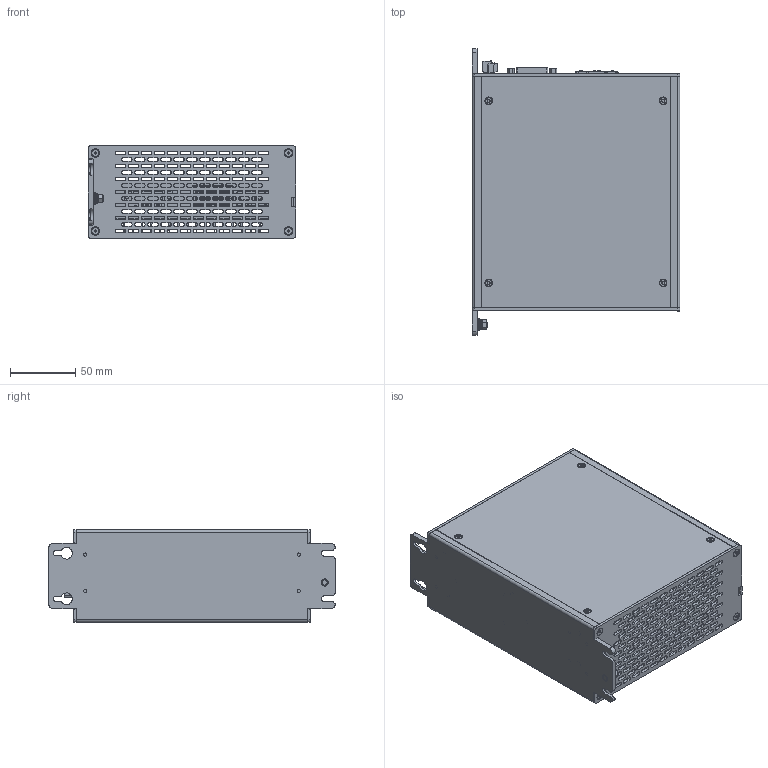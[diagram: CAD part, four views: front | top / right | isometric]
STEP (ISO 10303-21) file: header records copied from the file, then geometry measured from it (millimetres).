
FILE_DESCRIPTION((''),'2;1');
FILE_NAME('C6E22-BM_DVI_STEP','2017-02-23T',('androm'),(''),'PRO/ENGINEER BY PARAMETRIC TECHNOLOGY CORPORATION, 2013410','PRO/ENGINEER BY PARAMETRIC TECHNOLOGY CORPORATION, 2013410','');
FILE_SCHEMA(('AUTOMOTIVE_DESIGN { 1 0 10303 214 1 1 1 1 }'));
Products named in the file (1): C6E22-BM_DVI_STEP
Bounding box: 159.6 x 220 x 71 mm (x, y, z)
Surface area: 348848.6 mm2 (no closed solid volume)
Topology: 0 solids, 210 shells, 3060 faces, 13615 edges, 10578 vertices
Faces by surface type: plane 1818, cylinder 1005, cone 139, torus 40, sphere 31, bspline 20, extrusion 7
Entity records: 164211 total; most frequent: CARTESIAN_POINT 31371, DIRECTION 22972, ORIENTED_EDGE 20576, EDGE_CURVE 13584, VERTEX_POINT 10578, VECTOR 9242, LINE 9235, AXIS2_PLACEMENT_3D 6865
